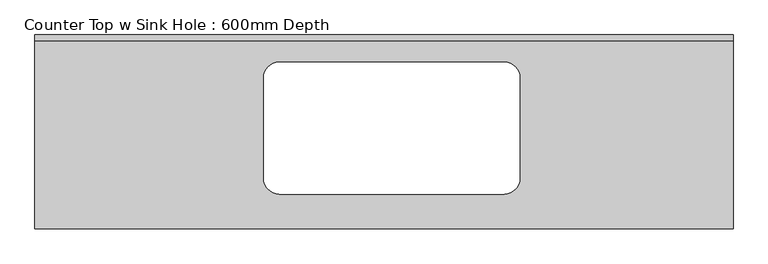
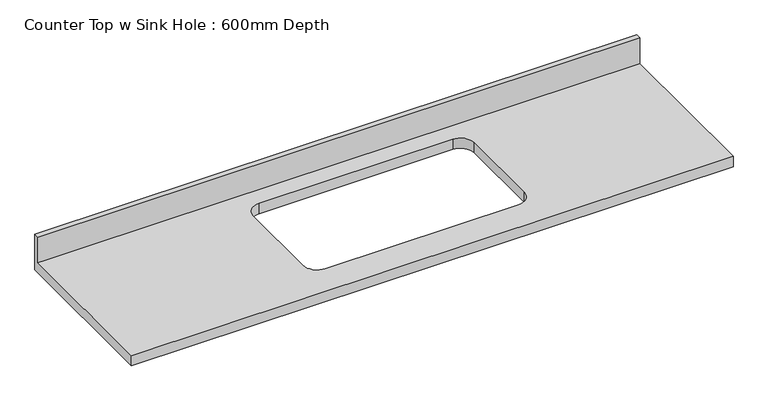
"""IFC4 building model written with IfcOpenShell, lengths in millimetres: furniture geometry, Counter Top w Sink Hole : 600mm Depth."""

from ifc_helpers import new_model, si_unit, frame, origin, place, context, project, spatial, polyline, circle_curve, source, transform, mapped, element, save
from ifc_brep_helpers import plane_surface, revolved_surface, advanced_brep


def counter_top_w_sink_hole_600mm_depth_3cb56055(model_context):
    return source(origin(), model_context, "Body", "AdvancedBrep", [
        advanced_brep(
        [(-1200.4622951, -625.0, 900.0), (1049.5377049, -625.0, 900.0), (1049.5377049, -19.05, 900.0), (-1200.4622951, -19.05, 900.0), (-412.3622951, -87.3, 900.0), (311.4377049, -87.3, 900.0), (362.2377049, -138.1, 900.0), (362.2377049, -461.9, 900.0), (311.4377049, -512.7, 900.0), (-412.3622951, -512.7, 900.0), (-463.1622951, -461.9, 900.0), (-463.1622951, -138.1, 900.0), (1049.5377049, 0.0, 860.0), (1049.5377049, -625.0, 860.0), (-1200.4622951, -625.0, 860.0), (-1200.4622951, 0.0, 860.0), (311.4377049, -87.3, 860.0), (-412.3622951, -87.3, 860.0), (-463.1622951, -138.1, 860.0), (-463.1622951, -461.9, 860.0), (-412.3622951, -512.7, 860.0), (311.4377049, -512.7, 860.0), (362.2377049, -461.9, 860.0), (362.2377049, -138.1, 860.0), (-1200.4622951, 0.0, 1001.6), (1049.5377049, 0.0, 1001.6), (-1200.4622951, -19.05, 1001.6), (1049.5377049, -19.05, 1001.6)],
        [
            (0, 1),
            (1, 2),
            (2, 3),
            (3, 0),
            (4, 5),
            (5, 6, circle_curve(frame((311.4377049, -138.1, 900.0), z_axis=(0.0, 0.0, -1.0), x_axis=(1.0, 0.0, 0.0)), 50.8)),
            (6, 7),
            (7, 8, circle_curve(frame((311.4377049, -461.9, 900.0), z_axis=(0.0, 0.0, -1.0), x_axis=(1.0, 0.0, 0.0)), 50.8)),
            (8, 9),
            (9, 10, circle_curve(frame((-412.3622951, -461.9, 900.0), z_axis=(0.0, 0.0, -1.0), x_axis=(1.0, 0.0, 0.0)), 50.8)),
            (10, 11),
            (11, 4, circle_curve(frame((-412.3622951, -138.1, 900.0), z_axis=(0.0, 0.0, -1.0), x_axis=(1.0, 0.0, 0.0)), 50.8)),
            (12, 13),
            (13, 14),
            (14, 15),
            (15, 12),
            (16, 17),
            (17, 18, circle_curve(frame((-412.3622951, -138.1, 860.0), z_axis=(0.0, 0.0, 1.0), x_axis=(1.0, 0.0, 0.0)), 50.8)),
            (18, 19),
            (19, 20, circle_curve(frame((-412.3622951, -461.9, 860.0), z_axis=(0.0, 0.0, 1.0), x_axis=(1.0, 0.0, 0.0)), 50.8)),
            (20, 21),
            (21, 22, circle_curve(frame((311.4377049, -461.9, 860.0), z_axis=(0.0, 0.0, 1.0), x_axis=(1.0, 0.0, 0.0)), 50.8)),
            (22, 23),
            (23, 16, circle_curve(frame((311.4377049, -138.1, 860.0), z_axis=(0.0, 0.0, 1.0), x_axis=(1.0, 0.0, 0.0)), 50.8)),
            (15, 24),
            (24, 25),
            (25, 12),
            (14, 0),
            (3, 26),
            (26, 24),
            (13, 1),
            (25, 27),
            (27, 2),
            (26, 27),
            (4, 17),
            (16, 5),
            (11, 18),
            (10, 19),
            (9, 20),
            (8, 21),
            (7, 22),
            (6, 23),
        ],
        [
            plane_surface(frame((-1200.4622951, 0.0, 900.0), z_axis=(0.0, 0.0, 1.0), x_axis=(-1.0, 0.0, 0.0))),
            plane_surface(frame((-1200.4622951, 0.0, 860.0), z_axis=(0.0, 0.0, -1.0), x_axis=(1.0, 0.0, 0.0))),
            plane_surface(frame((1049.5377049, 0.0, 900.0), z_axis=(0.0, 1.0, 0.0), x_axis=(0.0, 0.0, -1.0))),
            plane_surface(frame((-1200.4622951, 0.0, 900.0), z_axis=(-1.0, 0.0, 0.0), x_axis=(0.0, 0.0, -1.0))),
            plane_surface(frame((-1200.4622951, -625.0, 900.0), z_axis=(0.0, -1.0, 0.0), x_axis=(0.0, 0.0, -1.0))),
            plane_surface(frame((1049.5377049, -625.0, 900.0), z_axis=(1.0, 0.0, 0.0), x_axis=(0.0, 0.0, -1.0))),
            plane_surface(frame((-1200.4622951, 0.0, 1001.6), z_axis=(0.0, 0.0, 1.0), x_axis=(0.0, -1.0, 0.0))),
            plane_surface(frame((-1200.4622951, -19.05, 1001.6), z_axis=(0.0, -1.0, 0.0), x_axis=(0.0, 0.0, -1.0))),
            plane_surface(frame((311.4377049, -87.3, 900.0), z_axis=(0.0, -1.0, 0.0), x_axis=(0.0, 0.0, -1.0))),
            revolved_surface(polyline([(-361.5622951, -138.1, 900.0), (-361.5622951, -138.1, 860.0)]), (-412.3622951, -138.1, 860.0), (0.0, 0.0, 1.0)),
            plane_surface(frame((-463.1622951, -138.1, 900.0), z_axis=(1.0, 0.0, 0.0), x_axis=(0.0, 0.0, -1.0))),
            revolved_surface(polyline([(-361.5622951, -461.9, 900.0), (-361.5622951, -461.9, 860.0)]), (-412.3622951, -461.9, 860.0), (0.0, 0.0, 1.0)),
            plane_surface(frame((-412.3622951, -512.7, 900.0), z_axis=(0.0, 1.0, 0.0), x_axis=(0.0, 0.0, -1.0))),
            revolved_surface(polyline([(362.23770490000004, -461.9, 900.0), (362.23770490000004, -461.9, 860.0)]), (311.4377049, -461.9, 860.0), (0.0, 0.0, 1.0)),
            plane_surface(frame((362.2377049, -461.9, 900.0), z_axis=(-1.0, 0.0, 0.0), x_axis=(0.0, 0.0, -1.0))),
            revolved_surface(polyline([(362.23770490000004, -138.1, 900.0), (362.23770490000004, -138.1, 860.0)]), (311.4377049, -138.1, 860.0), (0.0, 0.0, 1.0)),
        ],
        [
            (0, [[1, 2, 3, 4], [5, 6, 7, 8, 9, 10, 11, 12]]),
            (1, [[13, 14, 15, 16], [17, 18, 19, 20, 21, 22, 23, 24]]),
            (2, [[-16, 25, 26, 27]]),
            (3, [[-15, 28, -4, 29, 30, -25]]),
            (4, [[-1, -28, -14, 31]]),
            (5, [[-13, -27, 32, 33, -2, -31]]),
            (6, [[-30, 34, -32, -26]]),
            (7, [[-34, -29, -3, -33]]),
            (8, [[35, -17, 36, -5]]),
            (9, [[-35, -12, 37, -18]]),
            (10, [[-37, -11, 38, -19]]),
            (11, [[-38, -10, 39, -20]]),
            (12, [[-39, -9, 40, -21]]),
            (13, [[-40, -8, 41, -22]]),
            (14, [[-41, -7, 42, -23]]),
            (15, [[-36, -24, -42, -6]]),
        ],
    ),
    ])


if __name__ == "__main__":
    model = new_model("IFC4")
    model_context = context("Model", 3, world=origin())
    ifc_project = project(units=[si_unit("LENGTHUNIT", "METRE", prefix="MILLI")], contexts=[model_context])
    site = spatial("IfcSite", under=ifc_project)
    building = spatial("IfcBuilding", under=site)
    placement = place(None, origin())
    counter_top_w_sink_hole_600mm_depth_shape = counter_top_w_sink_hole_600mm_depth_3cb56055(model_context)
    element("IfcFurniture", 1, ObjectType="Counter Top w Sink Hole : 600mm Depth", at=placement, inside=building, context=model_context, shape_type="MappedRepresentation", body=[
        mapped(counter_top_w_sink_hole_600mm_depth_shape, transform((0.0, 0.0, 0.0), x_axis=(1.0, 0.0, 0.0), y_axis=(0.0, 1.0, 0.0), z_axis=(0.0, 0.0, 1.0))),
    ])
    save(model, "model.ifc")
